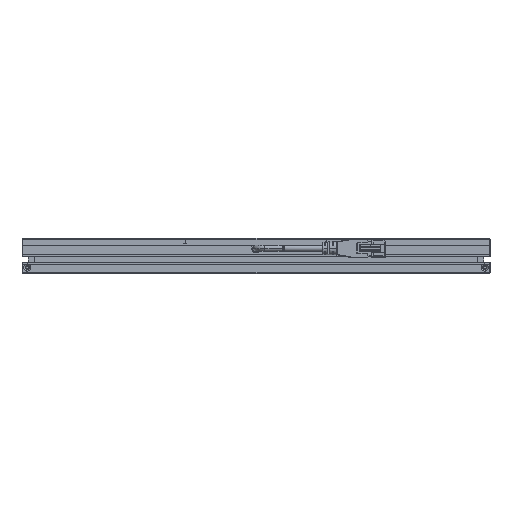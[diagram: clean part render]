
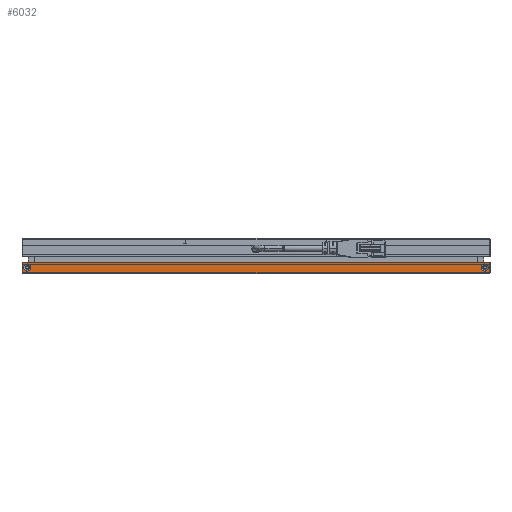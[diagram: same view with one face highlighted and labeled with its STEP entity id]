
A CAD part, left-side view. The second image highlights one B-rep face of the part: STEP entity #6032.
In plain terms, the highlighted planar face has unit normal (-1, 0, 0).
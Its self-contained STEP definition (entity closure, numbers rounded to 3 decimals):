
#53 = CARTESIAN_POINT ( 'NONE',  ( -132., -131.5, -9.85 ) ) ;
#61 = VERTEX_POINT ( 'NONE', #5685 ) ;
#482 = LINE ( 'NONE', #5480, #7492 ) ;
#883 = CARTESIAN_POINT ( 'NONE',  ( -132., -129., -12.5 ) ) ;
#908 = ORIENTED_EDGE ( 'NONE', *, *, #9216, .F. ) ;
#1143 = LINE ( 'NONE', #1422, #2097 ) ;
#1219 = EDGE_LOOP ( 'NONE', ( #1972, #3706, #4077, #908 ) ) ;
#1232 = EDGE_CURVE ( 'NONE', #8647, #4555, #7837, .T. ) ;
#1406 = CARTESIAN_POINT ( 'NONE',  ( -132., 131.5, -9.85 ) ) ;
#1421 = LINE ( 'NONE', #5369, #10628 ) ;
#1422 = CARTESIAN_POINT ( 'NONE',  ( -132., 132., -15.5 ) ) ;
#1436 = ORIENTED_EDGE ( 'NONE', *, *, #6322, .T. ) ;
#1525 = DIRECTION ( 'NONE',  ( 0., 0., -1. ) ) ;
#1625 = DIRECTION ( 'NONE',  ( 1., 0., 0. ) ) ;
#1972 = ORIENTED_EDGE ( 'NONE', *, *, #10313, .F. ) ;
#2097 = VECTOR ( 'NONE', #3166, 1000. ) ;
#2325 = FACE_BOUND ( 'NONE', #2477, .T. ) ;
#2477 = EDGE_LOOP ( 'NONE', ( #11242, #8711 ) ) ;
#2697 = DIRECTION ( 'NONE',  ( 0., 0., -1. ) ) ;
#2735 = FACE_OUTER_BOUND ( 'NONE', #1219, .T. ) ;
#2809 = VERTEX_POINT ( 'NONE', #6685 ) ;
#2825 = CARTESIAN_POINT ( 'NONE',  ( -132., 129., -14.5 ) ) ;
#2892 = VERTEX_POINT ( 'NONE', #10298 ) ;
#3139 = AXIS2_PLACEMENT_3D ( 'NONE', #10834, #9133, #10786 ) ;
#3166 = DIRECTION ( 'NONE',  ( 0., -1., 0. ) ) ;
#3167 = FACE_BOUND ( 'NONE', #3501, .T. ) ;
#3414 = VERTEX_POINT ( 'NONE', #53 ) ;
#3501 = EDGE_LOOP ( 'NONE', ( #4221, #1436 ) ) ;
#3632 = EDGE_CURVE ( 'NONE', #61, #2892, #1143, .T. ) ;
#3706 = ORIENTED_EDGE ( 'NONE', *, *, #5627, .T. ) ;
#4077 = ORIENTED_EDGE ( 'NONE', *, *, #3632, .T. ) ;
#4221 = ORIENTED_EDGE ( 'NONE', *, *, #6298, .T. ) ;
#4264 = CARTESIAN_POINT ( 'NONE',  ( -132., 129., -12.5 ) ) ;
#4405 = DIRECTION ( 'NONE',  ( 0., 0., -1. ) ) ;
#4408 = DIRECTION ( 'NONE',  ( 1., 0., 0. ) ) ;
#4555 = VERTEX_POINT ( 'NONE', #7109 ) ;
#4937 = CARTESIAN_POINT ( 'NONE',  ( -132., 131.5, 0. ) ) ;
#5369 = CARTESIAN_POINT ( 'NONE',  ( -132., 132., -9.85 ) ) ;
#5455 = AXIS2_PLACEMENT_3D ( 'NONE', #8441, #5889, #5856 ) ;
#5480 = CARTESIAN_POINT ( 'NONE',  ( -132., -131.5, 0. ) ) ;
#5620 = AXIS2_PLACEMENT_3D ( 'NONE', #4264, #1625, #8765 ) ;
#5627 = EDGE_CURVE ( 'NONE', #8857, #61, #6463, .T. ) ;
#5685 = CARTESIAN_POINT ( 'NONE',  ( -132., 131.5, -15.5 ) ) ;
#5856 = DIRECTION ( 'NONE',  ( 0., 0., -1. ) ) ;
#5889 = DIRECTION ( 'NONE',  ( 1., 0., 0. ) ) ;
#6032 = ADVANCED_FACE ( 'NONE', ( #2325, #3167, #2735 ), #7396, .F. ) ;
#6298 = EDGE_CURVE ( 'NONE', #2809, #11356, #8402, .T. ) ;
#6322 = EDGE_CURVE ( 'NONE', #11356, #2809, #6455, .T. ) ;
#6455 = CIRCLE ( 'NONE', #7085, 2. ) ;
#6463 = LINE ( 'NONE', #4937, #9231 ) ;
#6685 = CARTESIAN_POINT ( 'NONE',  ( -132., -129., -14.5 ) ) ;
#6832 = CIRCLE ( 'NONE', #7904, 2. ) ;
#6962 = DIRECTION ( 'NONE',  ( 1., 0., 0. ) ) ;
#7085 = AXIS2_PLACEMENT_3D ( 'NONE', #883, #4408, #2697 ) ;
#7109 = CARTESIAN_POINT ( 'NONE',  ( -132., 129., -10.5 ) ) ;
#7396 = PLANE ( 'NONE',  #3139 ) ;
#7492 = VECTOR ( 'NONE', #10657, 1000. ) ;
#7836 = CARTESIAN_POINT ( 'NONE',  ( -132., -129., -10.5 ) ) ;
#7837 = CIRCLE ( 'NONE', #5620, 2. ) ;
#7841 = EDGE_CURVE ( 'NONE', #4555, #8647, #6832, .T. ) ;
#7904 = AXIS2_PLACEMENT_3D ( 'NONE', #7916, #6962, #4405 ) ;
#7916 = CARTESIAN_POINT ( 'NONE',  ( -132., 129., -12.5 ) ) ;
#8402 = CIRCLE ( 'NONE', #5455, 2. ) ;
#8441 = CARTESIAN_POINT ( 'NONE',  ( -132., -129., -12.5 ) ) ;
#8647 = VERTEX_POINT ( 'NONE', #2825 ) ;
#8711 = ORIENTED_EDGE ( 'NONE', *, *, #7841, .T. ) ;
#8765 = DIRECTION ( 'NONE',  ( 0., 0., -1. ) ) ;
#8848 = DIRECTION ( 'NONE',  ( 0., -1., 0. ) ) ;
#8857 = VERTEX_POINT ( 'NONE', #1406 ) ;
#9133 = DIRECTION ( 'NONE',  ( 1., 0., 0. ) ) ;
#9216 = EDGE_CURVE ( 'NONE', #3414, #2892, #482, .T. ) ;
#9231 = VECTOR ( 'NONE', #1525, 1000. ) ;
#10298 = CARTESIAN_POINT ( 'NONE',  ( -132., -131.5, -15.5 ) ) ;
#10313 = EDGE_CURVE ( 'NONE', #8857, #3414, #1421, .T. ) ;
#10628 = VECTOR ( 'NONE', #8848, 1000. ) ;
#10657 = DIRECTION ( 'NONE',  ( 0., 0., -1. ) ) ;
#10786 = DIRECTION ( 'NONE',  ( 0., 0., 1. ) ) ;
#10834 = CARTESIAN_POINT ( 'NONE',  ( -132., 132., -15.5 ) ) ;
#11242 = ORIENTED_EDGE ( 'NONE', *, *, #1232, .T. ) ;
#11356 = VERTEX_POINT ( 'NONE', #7836 ) ;
